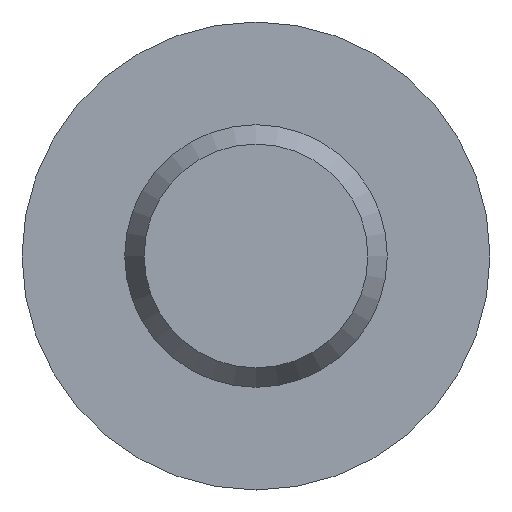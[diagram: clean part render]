
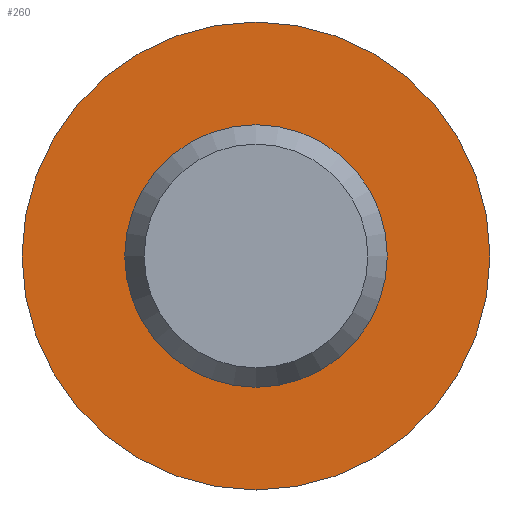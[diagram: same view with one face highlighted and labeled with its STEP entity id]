
A CAD part, front view. The second image highlights one B-rep face of the part: STEP entity #260.
In plain terms, the highlighted planar face has unit normal (0, -1, 0).
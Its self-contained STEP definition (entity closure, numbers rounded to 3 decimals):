
#260 = ADVANCED_FACE( '', ( #357, #358 ), #359, .F. );
#357 = FACE_BOUND( '', #461, .T. );
#358 = FACE_OUTER_BOUND( '', #462, .T. );
#359 = PLANE( '', #463 );
#461 = EDGE_LOOP( '', ( #624 ) );
#462 = EDGE_LOOP( '', ( #625 ) );
#463 = AXIS2_PLACEMENT_3D( '', #626, #627, #628 );
#624 = ORIENTED_EDGE( '', *, *, #678, .F. );
#625 = ORIENTED_EDGE( '', *, *, #679, .T. );
#626 = CARTESIAN_POINT( '', ( 6.95, 6., 0. ) );
#627 = DIRECTION( '', ( 0., 1., 0. ) );
#628 = DIRECTION( '', ( 0., 0., 1. ) );
#678 = EDGE_CURVE( '', #740, #740, #741, .T. );
#679 = EDGE_CURVE( '', #742, #742, #743, .T. );
#740 = VERTEX_POINT( '', #806 );
#741 = CIRCLE( '', #807, 3.9 );
#742 = VERTEX_POINT( '', #808 );
#743 = CIRCLE( '', #809, 6.95 );
#806 = CARTESIAN_POINT( '', ( 0., 6., -3.9 ) );
#807 = AXIS2_PLACEMENT_3D( '', #901, #902, #903 );
#808 = CARTESIAN_POINT( '', ( 0., 6., -6.95 ) );
#809 = AXIS2_PLACEMENT_3D( '', #904, #905, #906 );
#901 = CARTESIAN_POINT( '', ( 0., 6., 0. ) );
#902 = DIRECTION( '', ( 0., -1., 0. ) );
#903 = DIRECTION( '', ( 0., 0., -1. ) );
#904 = CARTESIAN_POINT( '', ( 0., 6., 0. ) );
#905 = DIRECTION( '', ( 0., -1., 0. ) );
#906 = DIRECTION( '', ( 0., 0., -1. ) );
